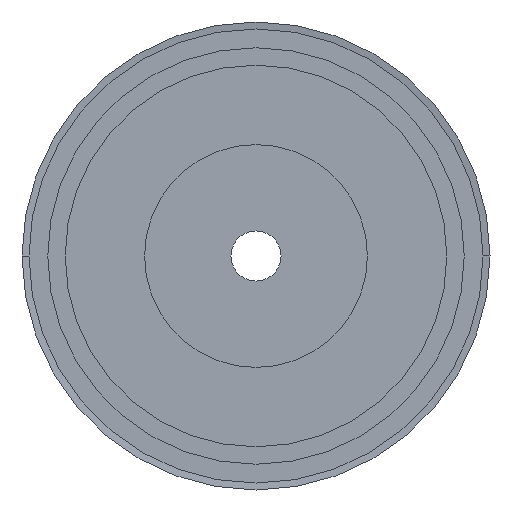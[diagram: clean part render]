
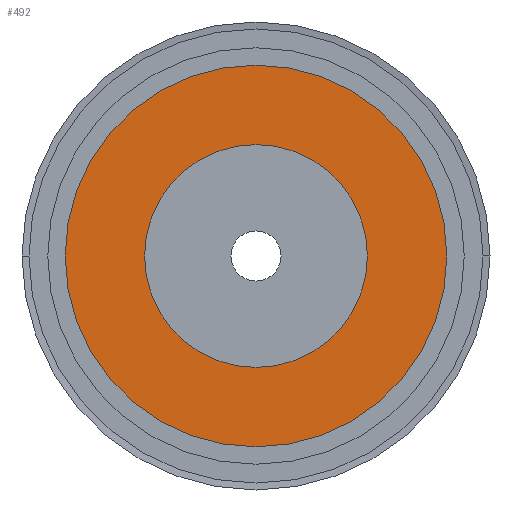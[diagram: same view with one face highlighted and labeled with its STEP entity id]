
A CAD part, left-side view. The second image highlights one B-rep face of the part: STEP entity #492.
In plain terms, the highlighted planar face has unit normal (-1, 0, 0).
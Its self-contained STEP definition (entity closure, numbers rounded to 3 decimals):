
#492 = ADVANCED_FACE( '', ( #1338, #1339 ), #1340, .T. );
#1338 = FACE_BOUND( '', #2188, .T. );
#1339 = FACE_OUTER_BOUND( '', #2189, .T. );
#1340 = PLANE( '', #2190 );
#2188 = EDGE_LOOP( '', ( #5879, #5880 ) );
#2189 = EDGE_LOOP( '', ( #5881, #5882 ) );
#2190 = AXIS2_PLACEMENT_3D( '', #5883, #5884, #5885 );
#5879 = ORIENTED_EDGE( '', *, *, #5901, .F. );
#5880 = ORIENTED_EDGE( '', *, *, #7120, .F. );
#5881 = ORIENTED_EDGE( '', *, *, #7119, .T. );
#5882 = ORIENTED_EDGE( '', *, *, #5905, .T. );
#5883 = CARTESIAN_POINT( '', ( 20., 54.25, 0. ) );
#5884 = DIRECTION( '', ( -1., 0., 0. ) );
#5885 = DIRECTION( '', ( 0., 1., 0. ) );
#5901 = EDGE_CURVE( '', #7122, #7125, #7126, .T. );
#5905 = EDGE_CURVE( '', #7133, #7130, #7134, .T. );
#7119 = EDGE_CURVE( '', #7130, #7133, #9153, .T. );
#7120 = EDGE_CURVE( '', #7125, #7122, #9154, .T. );
#7122 = VERTEX_POINT( '', #9156 );
#7125 = VERTEX_POINT( '', #9160 );
#7126 = CIRCLE( '', #9161, 40. );
#7130 = VERTEX_POINT( '', #9166 );
#7133 = VERTEX_POINT( '', #9170 );
#7134 = CIRCLE( '', #9171, 68.5 );
#9153 = CIRCLE( '', #11853, 68.5 );
#9154 = CIRCLE( '', #11854, 40. );
#9156 = CARTESIAN_POINT( '', ( 20., 40., 0. ) );
#9160 = CARTESIAN_POINT( '', ( 20., -40., 0. ) );
#9161 = AXIS2_PLACEMENT_3D( '', #11857, #11858, #11859 );
#9166 = CARTESIAN_POINT( '', ( 20., 68.5, 0. ) );
#9170 = CARTESIAN_POINT( '', ( 20., -68.5, 0. ) );
#9171 = AXIS2_PLACEMENT_3D( '', #11865, #11866, #11867 );
#11853 = AXIS2_PLACEMENT_3D( '', #14181, #14182, #14183 );
#11854 = AXIS2_PLACEMENT_3D( '', #14184, #14185, #14186 );
#11857 = CARTESIAN_POINT( '', ( 20., 0., 0. ) );
#11858 = DIRECTION( '', ( -1., 0., 0. ) );
#11859 = DIRECTION( '', ( 0., 1., 0. ) );
#11865 = CARTESIAN_POINT( '', ( 20., 0., 0. ) );
#11866 = DIRECTION( '', ( -1., 0., 0. ) );
#11867 = DIRECTION( '', ( 0., 1., 0. ) );
#14181 = CARTESIAN_POINT( '', ( 20., 0., 0. ) );
#14182 = DIRECTION( '', ( -1., 0., 0. ) );
#14183 = DIRECTION( '', ( 0., 1., 0. ) );
#14184 = CARTESIAN_POINT( '', ( 20., 0., 0. ) );
#14185 = DIRECTION( '', ( -1., 0., 0. ) );
#14186 = DIRECTION( '', ( 0., 1., 0. ) );
